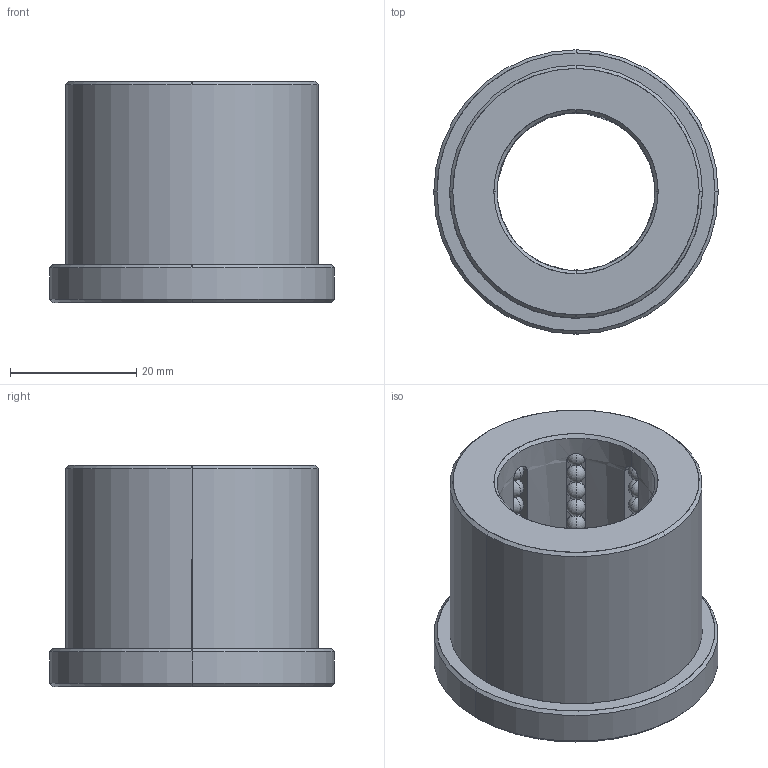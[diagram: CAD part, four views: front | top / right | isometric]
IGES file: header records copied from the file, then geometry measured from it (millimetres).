
Start section: START RECORD GO HERE.
Global section: file name: B8012535.igs; native system: DASSAULT SYSTEMES CATIA V5 R20 - www.3ds.com; preprocessor: CATIA Version 5 Release 20 ; author: Utente; organization: NB04-ASUS; date: 20200419.143103; units: millimetre
Bounding box: 45 x 45 x 35 mm (x, y, z)
Surface area: 12750.1 mm2 (no closed solid volume)
Topology: 0 solids, 0 shells, 357 faces, 1492 edges, 916 vertices
Faces by surface type: revolution 330, plane 27
